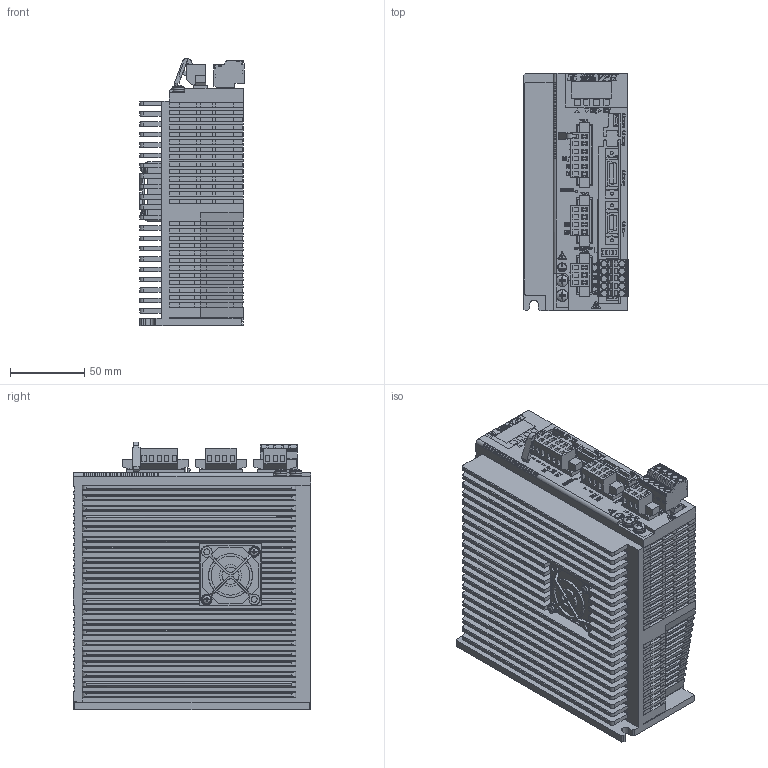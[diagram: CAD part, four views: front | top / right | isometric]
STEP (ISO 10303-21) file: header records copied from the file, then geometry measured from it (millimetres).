
FILE_DESCRIPTION (( 'STEP AP214' ), '1' );
FILE_NAME ('NCR-HC2_801#SE-78370A.STEP', '2021-11-19T06:56:53', ( '' ), ( '' ), 'SwSTEP 2.0', 'SolidWorks 2021', '' );
FILE_SCHEMA (( 'AUTOMOTIVE_DESIGN' ));
Length unit declared in the file: millimetre
Products named in the file (1): NCR-HC2_801#SE-78370A
Bounding box: 70.7 x 160 x 180.47 mm (x, y, z)
Volume: 1522053.5 mm3; surface area: 220322.1 mm2
Topology: 6 solids, 9 shells, 4879 faces, 13479 edges, 8918 vertices
Faces by surface type: plane 3673, cylinder 603, bspline 507, cone 72, torus 16, sphere 8
Entity records: 178965 total; most frequent: CARTESIAN_POINT 56756, ORIENTED_EDGE 26942, DIRECTION 22462, EDGE_CURVE 13471, VECTOR 10838, LINE 10838, VERTEX_POINT 8918, AXIS2_PLACEMENT_3D 5812
